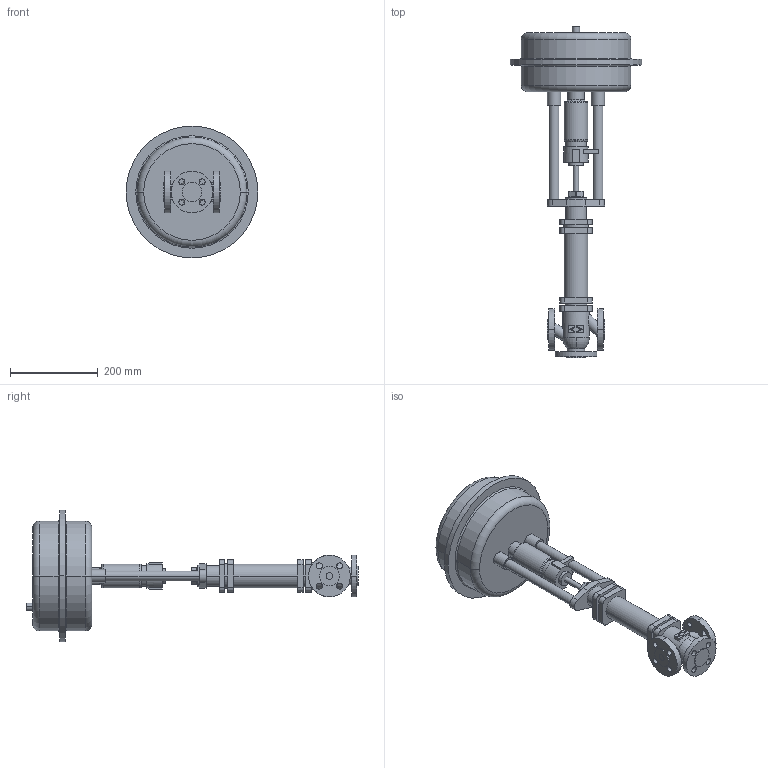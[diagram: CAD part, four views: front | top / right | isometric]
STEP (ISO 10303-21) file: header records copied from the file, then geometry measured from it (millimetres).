
FILE_DESCRIPTION(('OneSpaceDesigner STEP Export'),'2;1');
FILE_NAME('c000000704.stp','2006-09-21T 8:29:58',(''),(''),'OneSpace Designer STEP processor for AP214 (Solid Model)','OneSpace Designer 13.20A 18-Aug-2005 (C) CoCreate Software GmbH','');
FILE_SCHEMA(('AUTOMOTIVE_DESIGN { 1 0 10303 214 1 1 1 1 }'));
Length unit declared in the file: millimetre
Products named in the file (2): 1; 2
Bounding box: 300 x 755.6 x 300 mm (x, y, z)
Volume: 8690382.1 mm3; surface area: 470008.1 mm2
Topology: 2 solids, 2 shells, 242 faces, 592 edges, 389 vertices
Faces by surface type: cylinder 118, plane 102, torus 18, cone 4
Entity records: 6606 total; most frequent: CARTESIAN_POINT 1225, ORIENTED_EDGE 1184, DIRECTION 1012, EDGE_CURVE 592, VERTEX_POINT 389, AXIS2_PLACEMENT_3D 361, EDGE_LOOP 301, VECTOR 290
